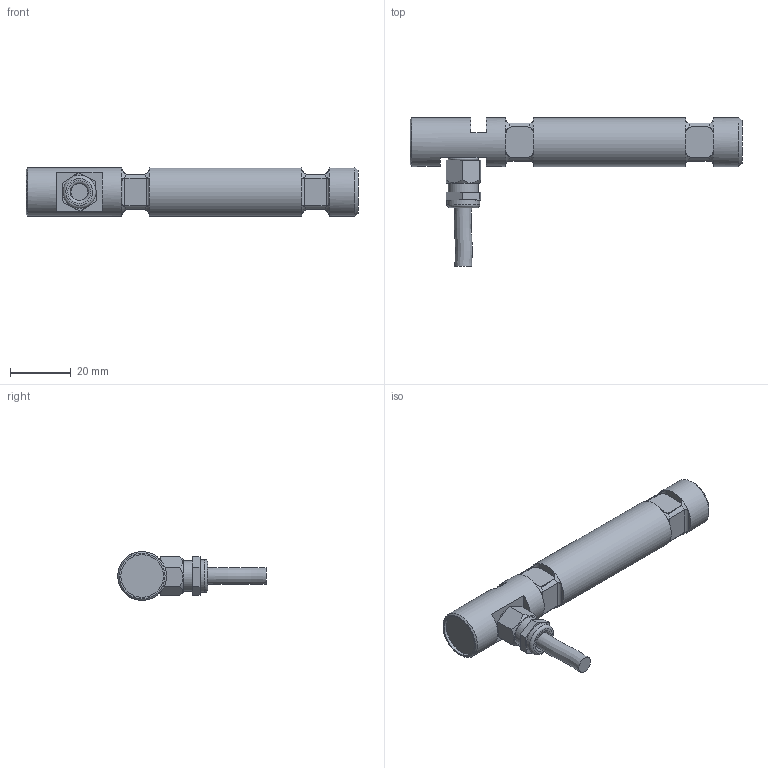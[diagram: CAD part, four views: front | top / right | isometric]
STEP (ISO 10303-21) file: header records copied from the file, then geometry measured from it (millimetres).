
FILE_DESCRIPTION(/* description */ ('Alibre Inc.'),/* implementation_level */ '2;1');
FILE_NAME(/* name */ 'export-BD188160-8CC2-4064-8E41-A9A5064CC57E',/* time_stamp */ '2023-02-15T14:24:19+01:00',/* author */ (''),/* organization */ (''),/* preprocessor_version */ 'ST-DEVELOPER v17',/* originating_system */ 'Alibre',/* authorisation */ '');
FILE_SCHEMA (('CONFIG_CONTROL_DESIGN'));
Length unit declared in the file: centimetre
Bounding box: 109 x 48.73 x 16 mm (x, y, z)
Volume: 21446.4 mm3; surface area: 7981 mm2
Topology: 4 solids, 4 shells, 128 faces, 301 edges, 187 vertices
Faces by surface type: plane 62, cylinder 41, torus 19, cone 5, bspline 1
Full cylindrical faces by diameter (mm): 5.5 x1, 7 x1, 8 x1, 10 x1, 10.8 x1, 14 x1, 16 x3
Entity records: 5015 total; most frequent: CARTESIAN_POINT 1962, ORIENTED_EDGE 560, DIRECTION 379, EDGE_CURVE 280, VERTEX_POINT 184, AXIS2_PLACEMENT_3D 162, FACE_BOUND 154, EDGE_LOOP 153
